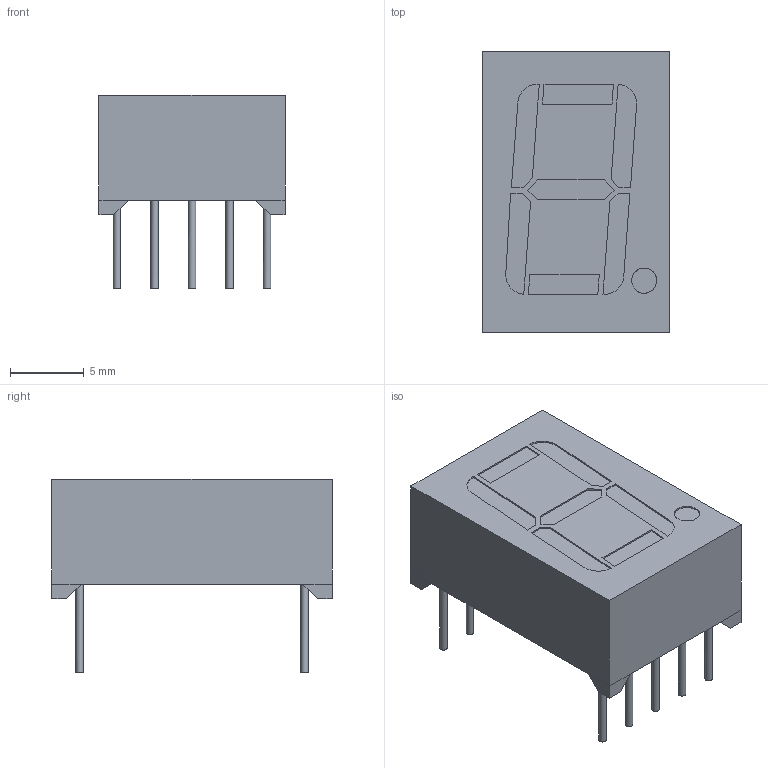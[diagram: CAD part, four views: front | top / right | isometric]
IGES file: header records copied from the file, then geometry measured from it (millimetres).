
Global section: file name: Filename.iges; native system: Open CASCADE 7.3; preprocessor: Open CASCADE IGES processor 7.3; date: 20210819.104127; units: millimetre
Bounding box: 12.6 x 19 x 13.1 mm (x, y, z)
Surface area: 1063.8 mm2 (no closed solid volume)
Topology: 0 solids, 0 shells, 127 faces, 534 edges, 512 vertices
Faces by surface type: plane 112, revolution 15
